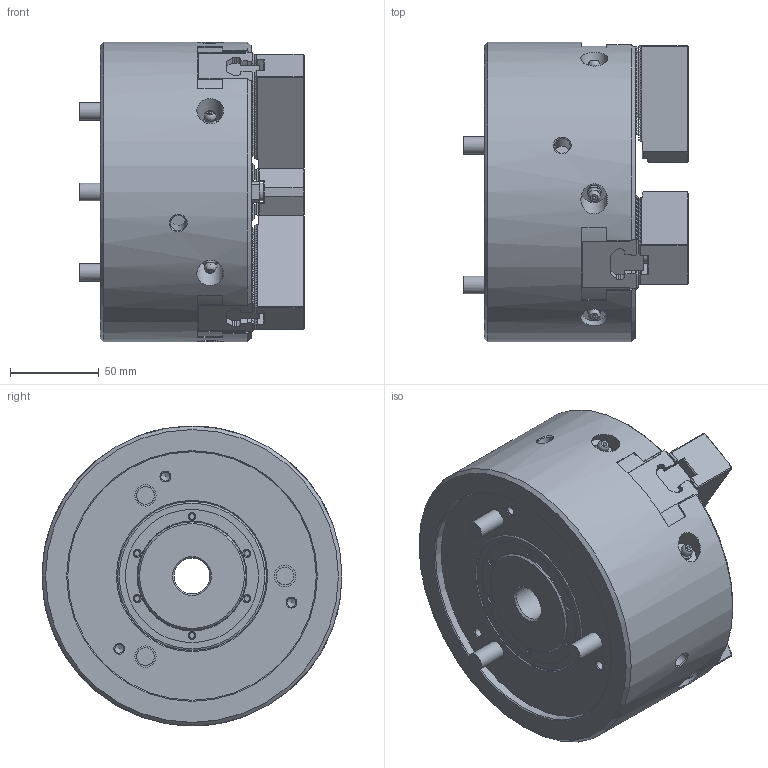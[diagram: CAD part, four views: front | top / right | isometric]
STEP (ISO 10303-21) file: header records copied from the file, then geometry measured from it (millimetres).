
FILE_DESCRIPTION (( 'STEP AP214' ), '1' );
FILE_NAME ('BS306_OC.STEP', '2019-12-20T05:38:42', ( '' ), ( '' ), 'SwSTEP 2.0', 'SolidWorks 2017', '' );
FILE_SCHEMA (( 'AUTOMOTIVE_DESIGN' ));
Length unit declared in the file: millimetre
Products named in the file (18): 61P319805-3_ソフトジョー_W_‡_[; B傾僫僣僉 M10亊250_~25; 61P447483-2_俿僫僢僩_b_g; Part5^Assem1_蹬怮椔; BS306_OC; 61P447483-2_俿僫僢僩_b_g_棉太倌I佱UA; B傾僫僣僉 M10亊250_~25_棉太倌TI佱UA; Part5^Assem1; 61P319805-3_ソフトジョー_W_‡_[_ﾃﾞﾌｫﾙﾄ_ATI≪UA
Assembly tree (13 placements, depth 2):
  61P319805-3_ソフトジョー_W_‡_[
  B傾僫僣僉 M10亊250_~25
  61P319805-3_ソフトジョー_W_‡_[
  B傾僫僣僉 M10亊250_~25
  B傾僫僣僉 M10亊250_~25
Bounding box: 126.5 x 169 x 169 mm (x, y, z)
Volume: 1808332.6 mm3; surface area: 179051.3 mm2
Topology: 13 solids, 25 shells, 2787 faces, 7849 edges, 5193 vertices
Faces by surface type: plane 2043, cylinder 606, cone 110, torus 16, sphere 12
Full cylindrical faces by diameter (mm): 1.5 x6, 1.9 x6, 3.2 x2, 3.3 x4, 5 x9, 6 x6, 6.8 x6, 7.35 x3, 8.5 x3, 8.8 x3, 10 x15, 11 x6, 12 x3, 15 x6, 16 x9, 17 x9, 20 x1, 44.451 x1, 45 x1, 61 x1, 61.4 x1, 75 x1, 84 x1, 140 x1, 169 x1
Entity records: 59418 total; most frequent: CARTESIAN_POINT 13066, ORIENTED_EDGE 9936, DIRECTION 8708, EDGE_CURVE 4968, LINE 4062, VECTOR 4062, VERTEX_POINT 3365, AXIS2_PLACEMENT_3D 2323
